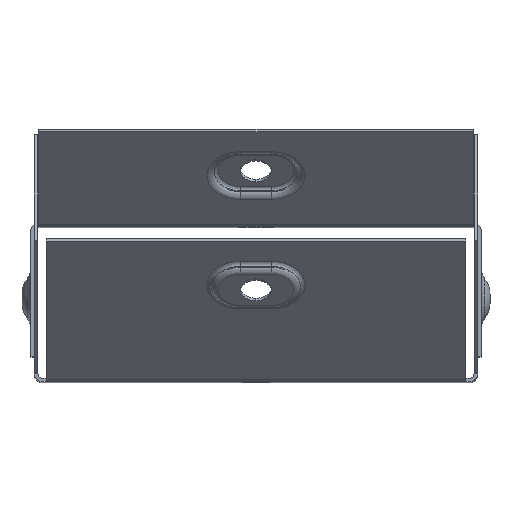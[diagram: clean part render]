
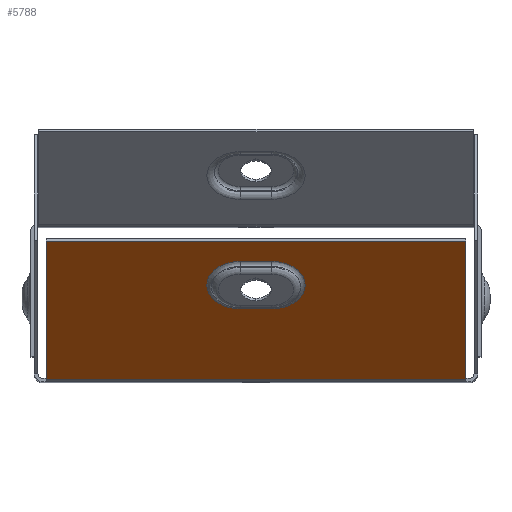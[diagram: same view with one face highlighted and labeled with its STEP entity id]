
A CAD part, top view. The second image highlights one B-rep face of the part: STEP entity #5788.
In plain terms, the highlighted planar face has unit normal (0, -0.707, 0.707).
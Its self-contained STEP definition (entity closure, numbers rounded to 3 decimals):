
#48 = VERTEX_POINT ( 'NONE', #10360 ) ;
#130 = VECTOR ( 'NONE', #13124, 1000. ) ;
#136 = VECTOR ( 'NONE', #3234, 1000. ) ;
#443 = DIRECTION ( 'NONE',  ( -1., 0., 0. ) ) ;
#451 = EDGE_CURVE ( 'NONE', #8989, #2403, #11490, .T. ) ;
#613 = ORIENTED_EDGE ( 'NONE', *, *, #7701, .T. ) ;
#728 = DIRECTION ( 'NONE',  ( 0., 0.707, 0.707 ) ) ;
#905 = CIRCLE ( 'NONE', #4833, 7.598 ) ;
#1112 = LINE ( 'NONE', #12086, #130 ) ;
#1419 = AXIS2_PLACEMENT_3D ( 'NONE', #4780, #13172, #6863 ) ;
#1920 = VERTEX_POINT ( 'NONE', #5323 ) ;
#2182 = CARTESIAN_POINT ( 'NONE',  ( -47.299, -35.8, 77.35 ) ) ;
#2342 = LINE ( 'NONE', #10986, #3839 ) ;
#2403 = VERTEX_POINT ( 'NONE', #12761 ) ;
#2454 = FACE_BOUND ( 'NONE', #10726, .T. ) ;
#2770 = VECTOR ( 'NONE', #3950, 1000. ) ;
#2950 = EDGE_CURVE ( 'NONE', #3637, #2403, #12982, .T. ) ;
#3163 = CARTESIAN_POINT ( 'NONE',  ( -3.5, -14.021, 99.129 ) ) ;
#3204 = ORIENTED_EDGE ( 'NONE', *, *, #4129, .T. ) ;
#3234 = DIRECTION ( 'NONE',  ( 0., -0.707, -0.707 ) ) ;
#3637 = VERTEX_POINT ( 'NONE', #7004 ) ;
#3839 = VECTOR ( 'NONE', #13017, 1000. ) ;
#3950 = DIRECTION ( 'NONE',  ( 1., 0., 0. ) ) ;
#4106 = LINE ( 'NONE', #7069, #2770 ) ;
#4129 = EDGE_CURVE ( 'NONE', #1920, #5254, #4106, .T. ) ;
#4726 = CARTESIAN_POINT ( 'NONE',  ( 3.5, -14.021, 99.129 ) ) ;
#4780 = CARTESIAN_POINT ( 'NONE',  ( 48.2, -35.8, 77.35 ) ) ;
#4801 = CARTESIAN_POINT ( 'NONE',  ( 3.5, -19.394, 93.756 ) ) ;
#4833 = AXIS2_PLACEMENT_3D ( 'NONE', #3163, #8318, #7391 ) ;
#5231 = ORIENTED_EDGE ( 'NONE', *, *, #9354, .T. ) ;
#5254 = VERTEX_POINT ( 'NONE', #7415 ) ;
#5323 = CARTESIAN_POINT ( 'NONE',  ( -3.5, -8.648, 104.502 ) ) ;
#5610 = VECTOR ( 'NONE', #443, 1000. ) ;
#5788 = ADVANCED_FACE ( 'NONE', ( #2454, #11464 ), #9122, .F. ) ;
#6004 = CARTESIAN_POINT ( 'NONE',  ( 47.299, -4.122, 109.028 ) ) ;
#6236 = EDGE_CURVE ( 'NONE', #8295, #8989, #2342, .T. ) ;
#6627 = EDGE_CURVE ( 'NONE', #13246, #1920, #905, .T. ) ;
#6863 = DIRECTION ( 'NONE',  ( 0., 0.707, 0.707 ) ) ;
#7004 = CARTESIAN_POINT ( 'NONE',  ( 47.299, -35.273, 77.877 ) ) ;
#7069 = CARTESIAN_POINT ( 'NONE',  ( 3.5, -8.648, 104.502 ) ) ;
#7391 = DIRECTION ( 'NONE',  ( 0., 0.707, 0.707 ) ) ;
#7415 = CARTESIAN_POINT ( 'NONE',  ( 3.5, -8.648, 104.502 ) ) ;
#7701 = EDGE_CURVE ( 'NONE', #5254, #48, #8663, .T. ) ;
#7919 = EDGE_LOOP ( 'NONE', ( #8594, #12984, #9685, #9323 ) ) ;
#7974 = AXIS2_PLACEMENT_3D ( 'NONE', #4726, #12077, #728 ) ;
#8295 = VERTEX_POINT ( 'NONE', #6004 ) ;
#8318 = DIRECTION ( 'NONE',  ( 0., 0.707, -0.707 ) ) ;
#8425 = CARTESIAN_POINT ( 'NONE',  ( 48.2, -35.273, 77.877 ) ) ;
#8594 = ORIENTED_EDGE ( 'NONE', *, *, #451, .T. ) ;
#8663 = CIRCLE ( 'NONE', #7974, 7.598 ) ;
#8989 = VERTEX_POINT ( 'NONE', #10367 ) ;
#9122 = PLANE ( 'NONE',  #1419 ) ;
#9323 = ORIENTED_EDGE ( 'NONE', *, *, #6236, .T. ) ;
#9354 = EDGE_CURVE ( 'NONE', #48, #13246, #10324, .T. ) ;
#9570 = ORIENTED_EDGE ( 'NONE', *, *, #6627, .T. ) ;
#9685 = ORIENTED_EDGE ( 'NONE', *, *, #10906, .T. ) ;
#10127 = VECTOR ( 'NONE', #10504, 1000. ) ;
#10324 = LINE ( 'NONE', #4801, #5610 ) ;
#10360 = CARTESIAN_POINT ( 'NONE',  ( 3.5, -19.394, 93.756 ) ) ;
#10367 = CARTESIAN_POINT ( 'NONE',  ( -47.299, -4.122, 109.028 ) ) ;
#10504 = DIRECTION ( 'NONE',  ( -1., 0., 0. ) ) ;
#10726 = EDGE_LOOP ( 'NONE', ( #3204, #613, #5231, #9570 ) ) ;
#10906 = EDGE_CURVE ( 'NONE', #3637, #8295, #1112, .T. ) ;
#10986 = CARTESIAN_POINT ( 'NONE',  ( 48.2, -4.122, 109.028 ) ) ;
#11464 = FACE_OUTER_BOUND ( 'NONE', #7919, .T. ) ;
#11490 = LINE ( 'NONE', #2182, #136 ) ;
#12077 = DIRECTION ( 'NONE',  ( 0., 0.707, -0.707 ) ) ;
#12086 = CARTESIAN_POINT ( 'NONE',  ( 47.299, -36.015, 77.135 ) ) ;
#12761 = CARTESIAN_POINT ( 'NONE',  ( -47.299, -35.273, 77.877 ) ) ;
#12982 = LINE ( 'NONE', #8425, #10127 ) ;
#12984 = ORIENTED_EDGE ( 'NONE', *, *, #2950, .F. ) ;
#13000 = CARTESIAN_POINT ( 'NONE',  ( -3.5, -19.394, 93.756 ) ) ;
#13017 = DIRECTION ( 'NONE',  ( -1., 0., 0. ) ) ;
#13124 = DIRECTION ( 'NONE',  ( 0., 0.707, 0.707 ) ) ;
#13172 = DIRECTION ( 'NONE',  ( 0., 0.707, -0.707 ) ) ;
#13246 = VERTEX_POINT ( 'NONE', #13000 ) ;
